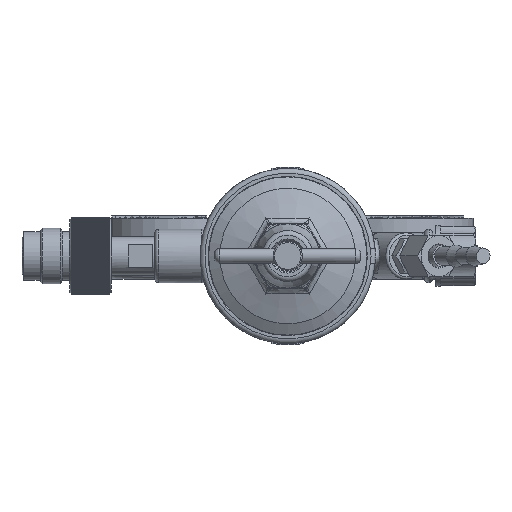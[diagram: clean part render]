
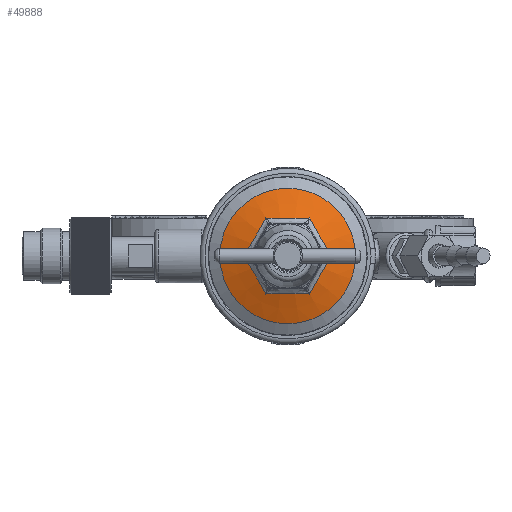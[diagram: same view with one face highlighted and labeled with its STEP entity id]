
A CAD part, front view. The second image highlights one B-rep face of the part: STEP entity #49888.
In plain terms, the highlighted conical face has half-angle 70 degrees and reference radius 21.92 mm.
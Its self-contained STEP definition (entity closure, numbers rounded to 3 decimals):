
#1455=B_SPLINE_CURVE_WITH_KNOTS('',3,(#66860,#66861,#66862,#66863,#66864),
 .UNSPECIFIED.,.F.,.F.,(4,1,4),(3.331,4.152,5.248),
 .UNSPECIFIED.);
#1456=B_SPLINE_CURVE_WITH_KNOTS('',3,(#66866,#66867,#66868,#66869,#66870),
 .UNSPECIFIED.,.F.,.F.,(4,1,4),(2.21,3.032,4.127),
 .UNSPECIFIED.);
#1457=B_SPLINE_CURVE_WITH_KNOTS('',3,(#66872,#66873,#66874,#66875,#66876),
 .UNSPECIFIED.,.F.,.F.,(4,1,4),(3.331,4.152,5.248),
 .UNSPECIFIED.);
#1458=B_SPLINE_CURVE_WITH_KNOTS('',3,(#66878,#66879,#66880,#66881,#66882),
 .UNSPECIFIED.,.F.,.F.,(4,1,4),(3.331,4.152,5.248),
 .UNSPECIFIED.);
#1459=B_SPLINE_CURVE_WITH_KNOTS('',3,(#66884,#66885,#66886,#66887,#66888),
 .UNSPECIFIED.,.F.,.F.,(4,1,4),(2.21,3.032,4.127),
 .UNSPECIFIED.);
#1460=B_SPLINE_CURVE_WITH_KNOTS('',3,(#66889,#66890,#66891,#66892,#66893),
 .UNSPECIFIED.,.F.,.F.,(4,1,4),(3.331,4.152,5.248),
 .UNSPECIFIED.);
#3192=CONICAL_SURFACE('',#52667,21.92,1.222);
#3541=LINE('',#66858,#7421);
#7421=VECTOR('',#56120,21.92);
#14298=FACE_OUTER_BOUND('',#17058,.T.);
#17058=EDGE_LOOP('',(#33803,#33804,#33805,#33806,#33807,#33808,#33809,#33810,
#33811));
#20060=CIRCLE('',#52668,27.839);
#21516=VERTEX_POINT('',#66855);
#21517=VERTEX_POINT('',#66857);
#21518=VERTEX_POINT('',#66859);
#21519=VERTEX_POINT('',#66865);
#21520=VERTEX_POINT('',#66871);
#21521=VERTEX_POINT('',#66877);
#21522=VERTEX_POINT('',#66883);
#26403=EDGE_CURVE('',#21516,#21516,#20060,.T.);
#26404=EDGE_CURVE('',#21516,#21517,#3541,.T.);
#26405=EDGE_CURVE('',#21518,#21517,#1455,.T.);
#26406=EDGE_CURVE('',#21519,#21518,#1456,.T.);
#26407=EDGE_CURVE('',#21520,#21519,#1457,.T.);
#26408=EDGE_CURVE('',#21521,#21520,#1458,.T.);
#26409=EDGE_CURVE('',#21522,#21521,#1459,.T.);
#26410=EDGE_CURVE('',#21517,#21522,#1460,.T.);
#33803=ORIENTED_EDGE('',*,*,#26403,.T.);
#33804=ORIENTED_EDGE('',*,*,#26404,.T.);
#33805=ORIENTED_EDGE('',*,*,#26405,.F.);
#33806=ORIENTED_EDGE('',*,*,#26406,.F.);
#33807=ORIENTED_EDGE('',*,*,#26407,.F.);
#33808=ORIENTED_EDGE('',*,*,#26408,.F.);
#33809=ORIENTED_EDGE('',*,*,#26409,.F.);
#33810=ORIENTED_EDGE('',*,*,#26410,.F.);
#33811=ORIENTED_EDGE('',*,*,#26404,.F.);
#49888=ADVANCED_FACE('',(#14298),#3192,.T.);
#52667=AXIS2_PLACEMENT_3D('',#66854,#56116,#56117);
#52668=AXIS2_PLACEMENT_3D('',#66856,#56118,#56119);
#56116=DIRECTION('center_axis',(0.,1.,0.));
#56117=DIRECTION('ref_axis',(-1.,0.,0.));
#56118=DIRECTION('center_axis',(0.,-1.,0.));
#56119=DIRECTION('ref_axis',(-1.,0.,0.));
#56120=DIRECTION('',(-0.94,-0.342,0.));
#66854=CARTESIAN_POINT('Origin',(0.,-5.345,
0.));
#66855=CARTESIAN_POINT('',(27.839,-3.191,0.));
#66856=CARTESIAN_POINT('Origin',(0.,-3.191,
0.));
#66857=CARTESIAN_POINT('',(18.026,-6.762,0.));
#66858=CARTESIAN_POINT('',(21.92,-5.345,0.));
#66859=CARTESIAN_POINT('',(9.013,-6.762,-15.611));
#66860=CARTESIAN_POINT('Ctrl Pts',(9.013,-6.762,-15.611));
#66861=CARTESIAN_POINT('Ctrl Pts',(10.252,-7.253,-13.341));
#66862=CARTESIAN_POINT('Ctrl Pts',(13.133,-8.049,-8.073));
#66863=CARTESIAN_POINT('Ctrl Pts',(16.23,-7.416,-2.943));
#66864=CARTESIAN_POINT('Ctrl Pts',(18.026,-6.762,0.));
#66865=CARTESIAN_POINT('',(-9.013,-6.762,-15.611));
#66866=CARTESIAN_POINT('Ctrl Pts',(-9.013,-6.762,
-15.611));
#66867=CARTESIAN_POINT('Ctrl Pts',(-6.428,-7.253,
-15.549));
#66868=CARTESIAN_POINT('Ctrl Pts',(-0.425,-8.049,
-15.41));
#66869=CARTESIAN_POINT('Ctrl Pts',(5.566,-7.416,-15.528));
#66870=CARTESIAN_POINT('Ctrl Pts',(9.013,-6.762,-15.611));
#66871=CARTESIAN_POINT('',(-18.026,-6.762,0.));
#66872=CARTESIAN_POINT('Ctrl Pts',(-18.026,-6.762,
0.));
#66873=CARTESIAN_POINT('Ctrl Pts',(-16.679,-7.253,
-2.208));
#66874=CARTESIAN_POINT('Ctrl Pts',(-13.558,-8.049,
-7.337));
#66875=CARTESIAN_POINT('Ctrl Pts',(-10.664,-7.416,
-12.584));
#66876=CARTESIAN_POINT('Ctrl Pts',(-9.013,-6.762,
-15.611));
#66877=CARTESIAN_POINT('',(-9.013,-6.762,15.611));
#66878=CARTESIAN_POINT('Ctrl Pts',(-9.013,-6.762,
15.611));
#66879=CARTESIAN_POINT('Ctrl Pts',(-10.252,-7.253,
13.341));
#66880=CARTESIAN_POINT('Ctrl Pts',(-13.133,-8.049,8.073));
#66881=CARTESIAN_POINT('Ctrl Pts',(-16.23,-7.416,2.943));
#66882=CARTESIAN_POINT('Ctrl Pts',(-18.026,-6.762,
0.));
#66883=CARTESIAN_POINT('',(9.013,-6.762,15.611));
#66884=CARTESIAN_POINT('Ctrl Pts',(9.013,-6.762,15.611));
#66885=CARTESIAN_POINT('Ctrl Pts',(6.428,-7.253,15.549));
#66886=CARTESIAN_POINT('Ctrl Pts',(0.425,-8.049,
15.41));
#66887=CARTESIAN_POINT('Ctrl Pts',(-5.566,-7.416,
15.528));
#66888=CARTESIAN_POINT('Ctrl Pts',(-9.013,-6.762,
15.611));
#66889=CARTESIAN_POINT('Ctrl Pts',(18.026,-6.762,0.));
#66890=CARTESIAN_POINT('Ctrl Pts',(16.679,-7.253,2.208));
#66891=CARTESIAN_POINT('Ctrl Pts',(13.558,-8.049,7.337));
#66892=CARTESIAN_POINT('Ctrl Pts',(10.664,-7.416,12.584));
#66893=CARTESIAN_POINT('Ctrl Pts',(9.013,-6.762,15.611));
